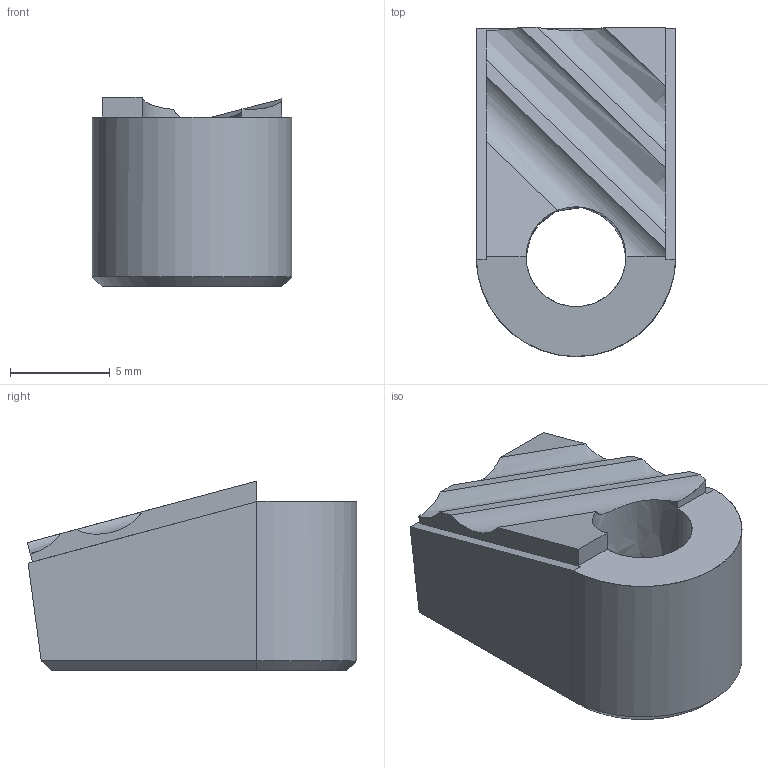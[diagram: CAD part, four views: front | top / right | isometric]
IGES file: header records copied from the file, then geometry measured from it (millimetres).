
Start section: SolidWorks IGES FILE using analytic representation for surfaces
Global section: file name: C:\WIX2\Positioning\3550\3550W011.igs; native system: SolidWorks 2003 by SolidWorks Corporation; preprocessor: Version 5.3; author: Joan; date: 030722.164446; units: millimetre
Bounding box: 10 x 16.51 x 9.52 mm (x, y, z)
Surface area: 771.5 mm2 (no closed solid volume)
Topology: 0 solids, 0 shells, 25 faces, 317 edges, 317 vertices
Faces by surface type: bspline 18, revolution 7
